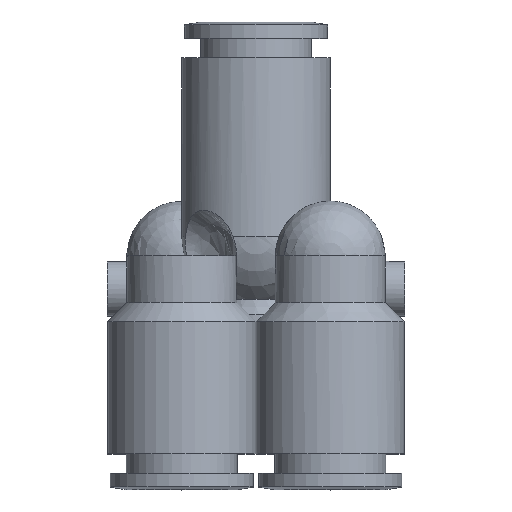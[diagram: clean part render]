
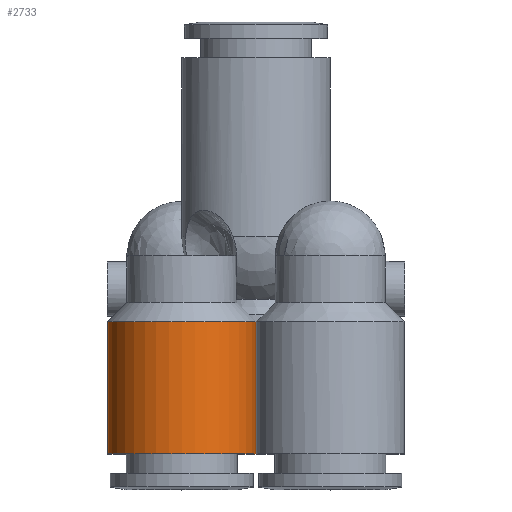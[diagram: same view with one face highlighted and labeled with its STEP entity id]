
A CAD part, top view. The second image highlights one B-rep face of the part: STEP entity #2733.
In plain terms, the highlighted free-form (B-spline) face has degree [1, 2] with [2, 9] control points.
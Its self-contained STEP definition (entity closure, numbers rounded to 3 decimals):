
#791=CARTESIAN_POINT('',(-6.75,-1.,0.));
#792=VERTEX_POINT('',#791);
#800=CARTESIAN_POINT('',(0.,-1.,6.75));
#801=VERTEX_POINT('',#800);
#802=CARTESIAN_POINT('',(-6.75,-1.,6.75));
#803=DIRECTION('',(0.0,1.0,0.0));
#804=DIRECTION('',(-1.0,0.0,0.0));
#805=AXIS2_PLACEMENT_3D('',#802,#803,#804);
#806=CIRCLE('',#805,6.75);
#807=EDGE_CURVE('',#792,#801,#806,.T.);
#1550=CARTESIAN_POINT('',(-6.75,-13.,0.));
#1551=VERTEX_POINT('',#1550);
#1703=CARTESIAN_POINT('',(-6.75,-1.,0.));
#1704=DIRECTION('',(0.0,-1.0,0.0));
#1705=VECTOR('',#1704,12.);
#1706=LINE('',#1703,#1705);
#1707=EDGE_CURVE('',#792,#1551,#1706,.T.);
#2055=CARTESIAN_POINT('',(0.,-13.,6.75));
#2056=VERTEX_POINT('',#2055);
#2057=CARTESIAN_POINT('',(0.,-13.,6.75));
#2058=DIRECTION('',(0.0,1.0,0.0));
#2059=VECTOR('',#2058,12.);
#2060=LINE('',#2057,#2059);
#2061=EDGE_CURVE('',#2056,#801,#2060,.T.);
#2695=CARTESIAN_POINT('',(0.,-1.,6.75));
#2696=CARTESIAN_POINT('',(0.,-13.0,6.75));
#2697=CARTESIAN_POINT('',(0.,-1.,0.));
#2698=CARTESIAN_POINT('',(0.,-13.,0.));
#2699=CARTESIAN_POINT('',(-6.75,-1.,0.0));
#2700=CARTESIAN_POINT('',(-6.75,-13.0,0.0));
#2701=CARTESIAN_POINT('',(-13.5,-1.,0.));
#2702=CARTESIAN_POINT('',(-13.5,-13.,0.));
#2703=CARTESIAN_POINT('',(-13.5,-1.,6.75));
#2704=CARTESIAN_POINT('',(-13.5,-13.0,6.75));
#2705=CARTESIAN_POINT('',(-13.5,-1.,13.5));
#2706=CARTESIAN_POINT('',(-13.5,-13.,13.5));
#2707=CARTESIAN_POINT('',(-6.75,-1.,13.5));
#2708=CARTESIAN_POINT('',(-6.75,-13.0,13.5));
#2709=CARTESIAN_POINT('',(0.0,-1.,13.5));
#2710=CARTESIAN_POINT('',(0.,-13.,13.5));
#2711=CARTESIAN_POINT('',(0.,-1.,6.75));
#2712=CARTESIAN_POINT('',(0.,-13.0,6.75));
#2720=(BOUNDED_SURFACE()B_SPLINE_SURFACE(1,2,((#2695,#2697,#2699,#2701,#2703,#2705,#2707,#2709,#2711),(#2696,#2698,#2700,#2702,#2704,#2706,#2708,#2710,#2712)),.UNSPECIFIED.,.F.,.T.,.U.)B_SPLINE_SURFACE_WITH_KNOTS((2,2),(3,2,2,2,3),(-0.889,0.889),(0.0,10.603,21.206,31.809,42.412),.UNSPECIFIED.)GEOMETRIC_REPRESENTATION_ITEM()RATIONAL_B_SPLINE_SURFACE(((1.0,0.707,1.0,0.707,1.0,0.707,1.0,0.707,1.0),(1.0,0.707,1.0,0.707,1.0,0.707,1.0,0.707,1.0)))REPRESENTATION_ITEM('')SURFACE());
#2721=ORIENTED_EDGE('',*,*,#1707,.T.);
#2722=CARTESIAN_POINT('',(-6.75,-13.,6.75));
#2723=DIRECTION('',(0.0,1.0,0.0));
#2724=DIRECTION('',(-1.0,0.0,0.0));
#2725=AXIS2_PLACEMENT_3D('',#2722,#2723,#2724);
#2726=CIRCLE('',#2725,6.75);
#2727=EDGE_CURVE('',#1551,#2056,#2726,.T.);
#2728=ORIENTED_EDGE('',*,*,#2727,.T.);
#2729=ORIENTED_EDGE('',*,*,#2061,.T.);
#2730=ORIENTED_EDGE('',*,*,#807,.F.);
#2731=EDGE_LOOP('',(#2721,#2728,#2729,#2730));
#2732=FACE_OUTER_BOUND('',#2731,.T.);
#2733=ADVANCED_FACE('',(#2732),#2720,.T.);
